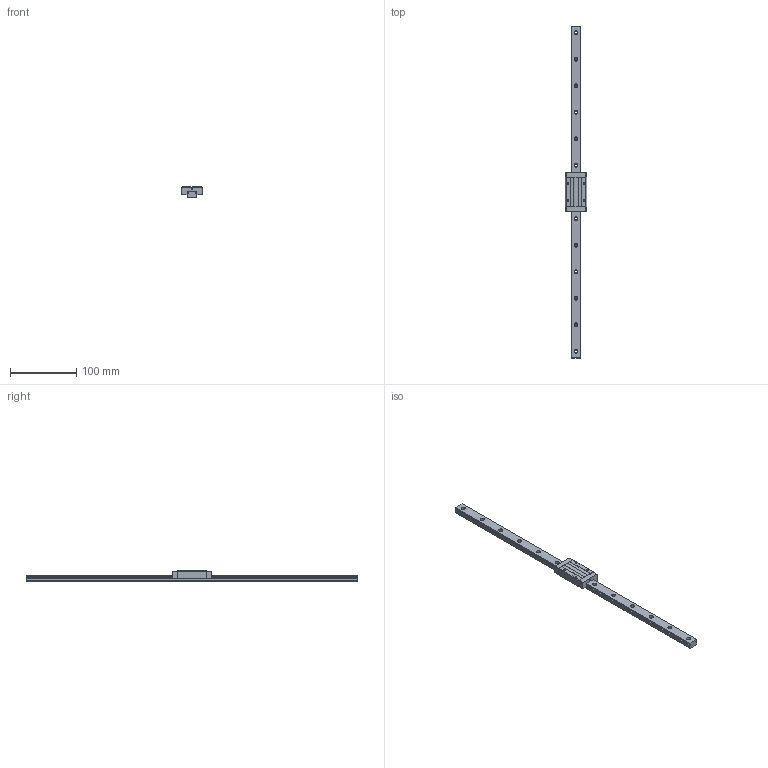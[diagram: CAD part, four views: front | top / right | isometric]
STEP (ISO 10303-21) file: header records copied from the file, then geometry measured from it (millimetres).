
FILE_DESCRIPTION(/* description */ (''),/* implementation_level */ '2;1');
FILE_NAME(/* name */ 'TM15NL-1-500-N.stp',/* time_stamp */ '2017-10-31T10:43:02+08:00',/* author */ (''),/* organization */ (''),/* preprocessor_version */ 'ST-DEVELOPER v11',/* originating_system */ 'SIEMENS UGS NX 6.0',/* authorisation */ '');
FILE_SCHEMA (('AUTOMOTIVE_DESIGN { 1 0 10303 214 1 1 1 1 }'));
Length unit declared in the file: millimetre
Products named in the file (1): TM15NL-1-500-N
Bounding box: 32 x 500 x 16 mm (x, y, z)
Volume: 83253.3 mm3; surface area: 35246.2 mm2
Topology: 2 solids, 2 shells, 145 faces, 387 edges, 261 vertices
Faces by surface type: plane 77, cylinder 64, cone 4
Full cylindrical faces by diameter (mm): 1.3 x2, 2.5 x4, 3.5 x13, 6 x13
Entity records: 4289 total; most frequent: DIRECTION 750, CARTESIAN_POINT 720, ORIENTED_EDGE 660, EDGE_CURVE 330, AXIS2_PLACEMENT_3D 274, VERTEX_POINT 244, EDGE_LOOP 222, LINE 202
